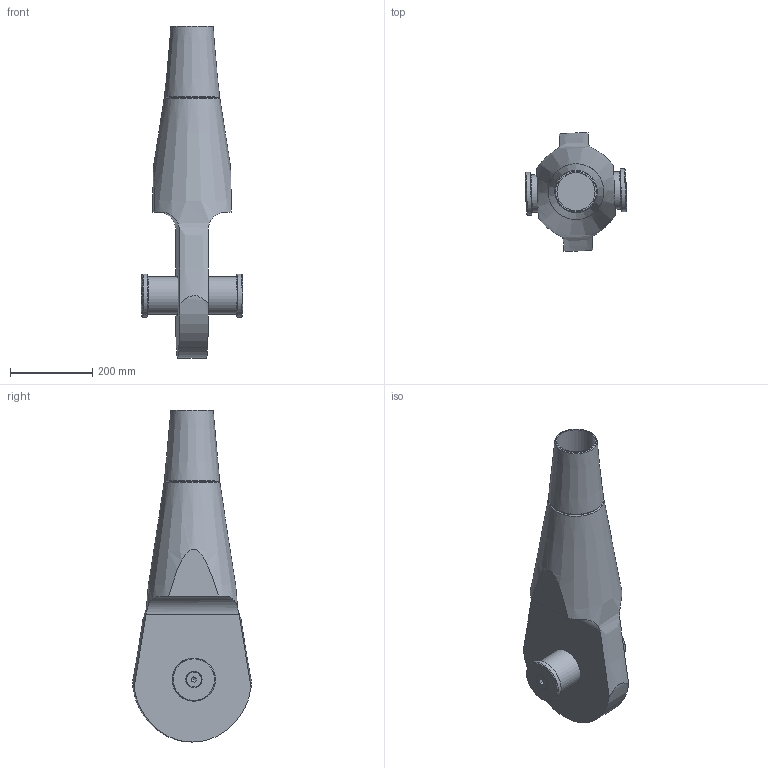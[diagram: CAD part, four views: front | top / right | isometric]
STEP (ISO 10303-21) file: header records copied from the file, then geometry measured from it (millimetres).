
FILE_DESCRIPTION(/* description */ (''),/* implementation_level */ '2;1');
FILE_NAME(/* name */ 'G:\Engineering\700 CAD\Internet-PX-1-step-igs-dxf\520-OES-Arbeitsdateien\520-090-OES.stp',/* time_stamp */ '2020-06-26T10:40:46+02:00',/* author */ ('schwarz'),/* organization */ (''),/* preprocessor_version */ 'ST-DEVELOPER v16.1',/* originating_system */ 'Autodesk Inventor 2016',/* authorisation */ '');
FILE_SCHEMA (('AUTOMOTIVE_DESIGN { 1 0 10303 214 3 1 1 }'));
Length unit declared in the file: centimetre
Products named in the file (1): 520-090-OES-KMU-Kunde
Bounding box: 247.65 x 288.47 x 808.5 mm (x, y, z)
Volume: 15405764.8 mm3; surface area: 619653.7 mm2
Topology: 2 solids, 6 shells, 68 faces, 155 edges, 101 vertices
Faces by surface type: plane 31, cone 18, cylinder 18, torus 1
Full cylindrical faces by diameter (mm): 17.294 x2, 20 x2, 22 x2, 36.05 x2, 92 x1, 93 x1, 95 x1, 105 x2
Entity records: 1843 total; most frequent: CARTESIAN_POINT 435, DIRECTION 270, ORIENTED_EDGE 216, AXIS2_PLACEMENT_3D 119, EDGE_LOOP 108, EDGE_CURVE 108, VERTEX_POINT 86, STYLED_ITEM 70
